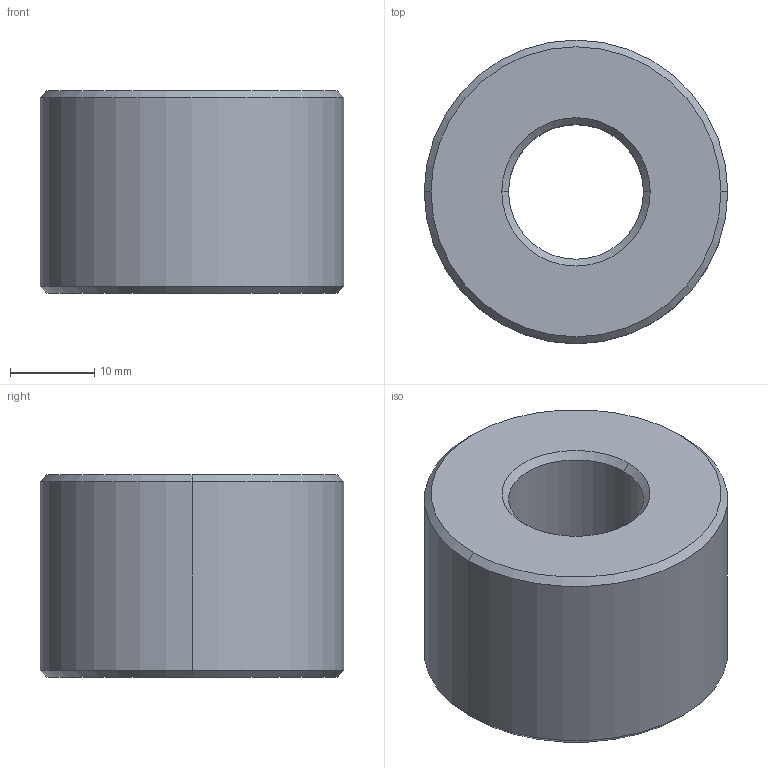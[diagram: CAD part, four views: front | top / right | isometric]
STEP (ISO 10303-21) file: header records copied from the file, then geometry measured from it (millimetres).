
FILE_DESCRIPTION (( 'STEP AP203' ), '1' );
FILE_NAME ('L1339.L16-04.step', '2024-10-24T14:05:06', ( '' ), ( '' ), 'SwSTEP 2.0', 'SolidWorks 2019', '' );
FILE_SCHEMA (( 'CONFIG_CONTROL_DESIGN' ));
Length unit declared in the file: millimetre
Products named in the file (1): L1339.L16-04
Bounding box: 36 x 36 x 24 mm (x, y, z)
Volume: 19499 mm3; surface area: 5401.2 mm2
Topology: 1 solids, 1 shells, 14 faces, 28 edges, 16 vertices
Faces by surface type: cone 8, cylinder 4, plane 2
Entity records: 445 total; most frequent: DIRECTION 74, CARTESIAN_POINT 59, ORIENTED_EDGE 56, AXIS2_PLACEMENT_3D 31, EDGE_CURVE 28, CIRCLE 16, EDGE_LOOP 16, VERTEX_POINT 16
